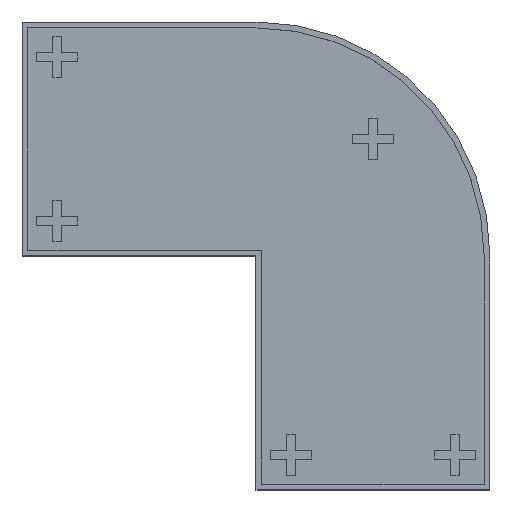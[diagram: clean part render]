
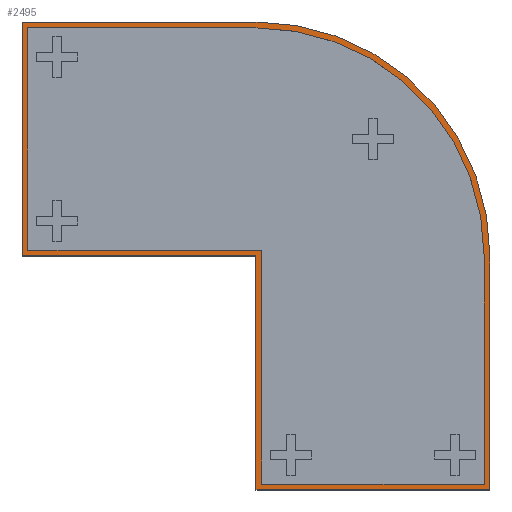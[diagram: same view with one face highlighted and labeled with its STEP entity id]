
A CAD part, top view. The second image highlights one B-rep face of the part: STEP entity #2495.
In plain terms, the highlighted planar face has unit normal (0, 0, 1).
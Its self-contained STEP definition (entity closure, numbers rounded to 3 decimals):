
#3 = VERTEX_POINT ( 'NONE', #787 ) ;
#54 = CARTESIAN_POINT ( 'NONE',  ( -40., 1., 2.5 ) ) ;
#58 = CARTESIAN_POINT ( 'NONE',  ( 1., 1., 2.5 ) ) ;
#59 = CARTESIAN_POINT ( 'NONE',  ( 0., -39., 2.5 ) ) ;
#64 = VECTOR ( 'NONE', #547, 1000. ) ;
#73 = DIRECTION ( 'NONE',  ( -1., 0., 0. ) ) ;
#100 = DIRECTION ( 'NONE',  ( 0., -1., 0. ) ) ;
#145 = ORIENTED_EDGE ( 'NONE', *, *, #1384, .F. ) ;
#160 = LINE ( 'NONE', #2516, #788 ) ;
#189 = EDGE_CURVE ( 'NONE', #2299, #216, #1826, .T. ) ;
#216 = VERTEX_POINT ( 'NONE', #954 ) ;
#224 = CARTESIAN_POINT ( 'NONE',  ( 0., 0., 2.5 ) ) ;
#260 = DIRECTION ( 'NONE',  ( 0., 1., 0. ) ) ;
#287 = ORIENTED_EDGE ( 'NONE', *, *, #2008, .F. ) ;
#297 = VECTOR ( 'NONE', #1286, 1000. ) ;
#303 = ORIENTED_EDGE ( 'NONE', *, *, #2573, .F. ) ;
#308 = LINE ( 'NONE', #54, #1558 ) ;
#314 = LINE ( 'NONE', #59, #1234 ) ;
#329 = CARTESIAN_POINT ( 'NONE',  ( -40., 39., 2.5 ) ) ;
#354 = ORIENTED_EDGE ( 'NONE', *, *, #1000, .T. ) ;
#360 = CARTESIAN_POINT ( 'NONE',  ( -39., 39., 2.5 ) ) ;
#370 = CARTESIAN_POINT ( 'NONE',  ( -39., 40., 2.5 ) ) ;
#406 = EDGE_CURVE ( 'NONE', #625, #1656, #2258, .T. ) ;
#466 = ORIENTED_EDGE ( 'NONE', *, *, #568, .T. ) ;
#525 = VERTEX_POINT ( 'NONE', #1283 ) ;
#526 = VERTEX_POINT ( 'NONE', #1022 ) ;
#530 = ORIENTED_EDGE ( 'NONE', *, *, #406, .T. ) ;
#533 = CARTESIAN_POINT ( 'NONE',  ( 39., 0., 2.5 ) ) ;
#545 = VECTOR ( 'NONE', #2000, 1000. ) ;
#547 = DIRECTION ( 'NONE',  ( 0., -1., 0. ) ) ;
#568 = EDGE_CURVE ( 'NONE', #689, #526, #1096, .T. ) ;
#592 = CARTESIAN_POINT ( 'NONE',  ( 39., -39., 2.5 ) ) ;
#605 = DIRECTION ( 'NONE',  ( 0., -1., 0. ) ) ;
#609 = LINE ( 'NONE', #329, #2133 ) ;
#625 = VERTEX_POINT ( 'NONE', #2175 ) ;
#642 = LINE ( 'NONE', #370, #1546 ) ;
#672 = ORIENTED_EDGE ( 'NONE', *, *, #1551, .T. ) ;
#689 = VERTEX_POINT ( 'NONE', #771 ) ;
#695 = VECTOR ( 'NONE', #605, 1000. ) ;
#737 = EDGE_LOOP ( 'NONE', ( #466, #1642, #530, #808, #2266, #672, #354 ) ) ;
#750 = VERTEX_POINT ( 'NONE', #918 ) ;
#771 = CARTESIAN_POINT ( 'NONE',  ( -40., 40., 2.5 ) ) ;
#787 = CARTESIAN_POINT ( 'NONE',  ( -39., 1., 2.5 ) ) ;
#788 = VECTOR ( 'NONE', #2247, 1000. ) ;
#806 = EDGE_CURVE ( 'NONE', #1656, #2299, #160, .T. ) ;
#808 = ORIENTED_EDGE ( 'NONE', *, *, #806, .T. ) ;
#815 = LINE ( 'NONE', #533, #1044 ) ;
#821 = ORIENTED_EDGE ( 'NONE', *, *, #2344, .F. ) ;
#829 = CARTESIAN_POINT ( 'NONE',  ( -40., 40., 2.5 ) ) ;
#853 = VERTEX_POINT ( 'NONE', #1917 ) ;
#864 = CARTESIAN_POINT ( 'NONE',  ( 0., -40., 2.5 ) ) ;
#874 = CARTESIAN_POINT ( 'NONE',  ( 1., -40., 2.5 ) ) ;
#918 = CARTESIAN_POINT ( 'NONE',  ( 1., -39., 2.5 ) ) ;
#924 = CARTESIAN_POINT ( 'NONE',  ( 0., 40., 2.5 ) ) ;
#937 = VECTOR ( 'NONE', #2044, 1000. ) ;
#954 = CARTESIAN_POINT ( 'NONE',  ( 40., 0., 2.5 ) ) ;
#957 = VERTEX_POINT ( 'NONE', #924 ) ;
#1000 = EDGE_CURVE ( 'NONE', #957, #689, #2577, .T. ) ;
#1022 = CARTESIAN_POINT ( 'NONE',  ( -40., 0., 2.5 ) ) ;
#1044 = VECTOR ( 'NONE', #260, 1000. ) ;
#1059 = DIRECTION ( 'NONE',  ( 1., 0., 0. ) ) ;
#1096 = LINE ( 'NONE', #829, #64 ) ;
#1142 = LINE ( 'NONE', #874, #695 ) ;
#1178 = EDGE_CURVE ( 'NONE', #853, #525, #1481, .T. ) ;
#1181 = EDGE_CURVE ( 'NONE', #1815, #3, #642, .T. ) ;
#1184 = DIRECTION ( 'NONE',  ( 1., 0., 0. ) ) ;
#1218 = AXIS2_PLACEMENT_3D ( 'NONE', #1717, #1453, #1184 ) ;
#1220 = ORIENTED_EDGE ( 'NONE', *, *, #1178, .F. ) ;
#1234 = VECTOR ( 'NONE', #2414, 1000. ) ;
#1257 = VECTOR ( 'NONE', #1724, 1000. ) ;
#1283 = CARTESIAN_POINT ( 'NONE',  ( 0., 39., 2.5 ) ) ;
#1286 = DIRECTION ( 'NONE',  ( 0., 1., 0. ) ) ;
#1295 = VERTEX_POINT ( 'NONE', #58 ) ;
#1322 = DIRECTION ( 'NONE',  ( 0., 0., 1. ) ) ;
#1384 = EDGE_CURVE ( 'NONE', #525, #1815, #609, .T. ) ;
#1392 = ORIENTED_EDGE ( 'NONE', *, *, #1181, .F. ) ;
#1453 = DIRECTION ( 'NONE',  ( 0., 0., 1. ) ) ;
#1481 = CIRCLE ( 'NONE', #1218, 39. ) ;
#1546 = VECTOR ( 'NONE', #100, 1000. ) ;
#1549 = CARTESIAN_POINT ( 'NONE',  ( 40., 0., 2.5 ) ) ;
#1551 = EDGE_CURVE ( 'NONE', #216, #957, #2485, .T. ) ;
#1558 = VECTOR ( 'NONE', #2405, 1000. ) ;
#1592 = CARTESIAN_POINT ( 'NONE',  ( 0., 0., 2.5 ) ) ;
#1642 = ORIENTED_EDGE ( 'NONE', *, *, #2548, .T. ) ;
#1656 = VERTEX_POINT ( 'NONE', #864 ) ;
#1657 = VERTEX_POINT ( 'NONE', #592 ) ;
#1686 = AXIS2_PLACEMENT_3D ( 'NONE', #224, #2574, #2307 ) ;
#1717 = CARTESIAN_POINT ( 'NONE',  ( 0., 0., 2.5 ) ) ;
#1724 = DIRECTION ( 'NONE',  ( 0., -1., 0. ) ) ;
#1801 = EDGE_LOOP ( 'NONE', ( #1392, #145, #1220, #2467, #303, #287, #821 ) ) ;
#1815 = VERTEX_POINT ( 'NONE', #360 ) ;
#1826 = LINE ( 'NONE', #1549, #297 ) ;
#1860 = PLANE ( 'NONE',  #2499 ) ;
#1917 = CARTESIAN_POINT ( 'NONE',  ( 39., 0., 2.5 ) ) ;
#1993 = CARTESIAN_POINT ( 'NONE',  ( 0., -40., 2.5 ) ) ;
#2000 = DIRECTION ( 'NONE',  ( 1., 0., 0. ) ) ;
#2008 = EDGE_CURVE ( 'NONE', #1295, #750, #1142, .T. ) ;
#2020 = EDGE_CURVE ( 'NONE', #1657, #853, #815, .T. ) ;
#2044 = DIRECTION ( 'NONE',  ( -1., 0., 0. ) ) ;
#2133 = VECTOR ( 'NONE', #73, 1000. ) ;
#2175 = CARTESIAN_POINT ( 'NONE',  ( 0., 0., 2.5 ) ) ;
#2229 = FACE_BOUND ( 'NONE', #1801, .T. ) ;
#2247 = DIRECTION ( 'NONE',  ( 1., 0., 0. ) ) ;
#2258 = LINE ( 'NONE', #1993, #1257 ) ;
#2263 = CARTESIAN_POINT ( 'NONE',  ( -40., 0., 2.5 ) ) ;
#2266 = ORIENTED_EDGE ( 'NONE', *, *, #189, .T. ) ;
#2299 = VERTEX_POINT ( 'NONE', #2469 ) ;
#2307 = DIRECTION ( 'NONE',  ( 1., 0., 0. ) ) ;
#2308 = CARTESIAN_POINT ( 'NONE',  ( -40., 40., 2.5 ) ) ;
#2344 = EDGE_CURVE ( 'NONE', #3, #1295, #308, .T. ) ;
#2359 = FACE_OUTER_BOUND ( 'NONE', #737, .T. ) ;
#2405 = DIRECTION ( 'NONE',  ( 1., 0., 0. ) ) ;
#2414 = DIRECTION ( 'NONE',  ( 1., 0., 0. ) ) ;
#2467 = ORIENTED_EDGE ( 'NONE', *, *, #2020, .F. ) ;
#2469 = CARTESIAN_POINT ( 'NONE',  ( 40., -40., 2.5 ) ) ;
#2485 = CIRCLE ( 'NONE', #1686, 40. ) ;
#2495 = ADVANCED_FACE ( 'NONE', ( #2229, #2359 ), #1860, .T. ) ;
#2499 = AXIS2_PLACEMENT_3D ( 'NONE', #1592, #1322, #1059 ) ;
#2516 = CARTESIAN_POINT ( 'NONE',  ( 0., -40., 2.5 ) ) ;
#2532 = LINE ( 'NONE', #2263, #545 ) ;
#2548 = EDGE_CURVE ( 'NONE', #526, #625, #2532, .T. ) ;
#2573 = EDGE_CURVE ( 'NONE', #750, #1657, #314, .T. ) ;
#2574 = DIRECTION ( 'NONE',  ( 0., 0., 1. ) ) ;
#2577 = LINE ( 'NONE', #2308, #937 ) ;
